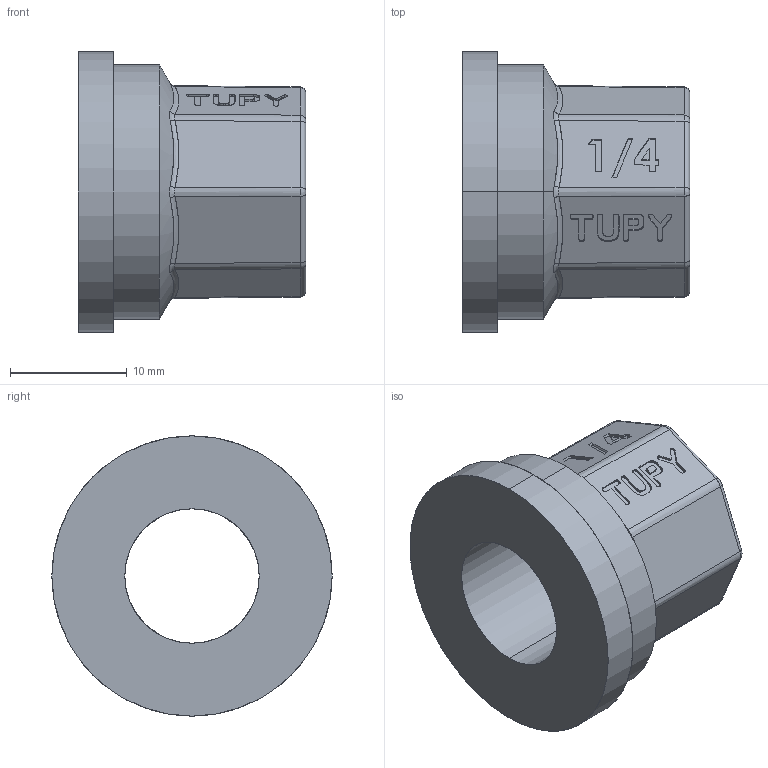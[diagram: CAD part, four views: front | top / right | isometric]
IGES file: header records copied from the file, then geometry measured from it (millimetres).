
Start section: SolidWorks IGES file using analytic representation for surfaces
Global section: file name: C:\Users\Joel Rosa\Desktop\Tubulação\12-83-OK\12-83-002.IGS; native system: SolidWorks 2011; preprocessor: SolidWorks 2011; author: Joel Rosa; date: 131216.231844; units: millimetre
Bounding box: 19.5 x 24 x 24 mm (x, y, z)
Surface area: 2839.8 mm2 (no closed solid volume)
Topology: 0 solids, 0 shells, 225 faces, 1665 edges, 1665 vertices
Faces by surface type: bspline 169, revolution 56
